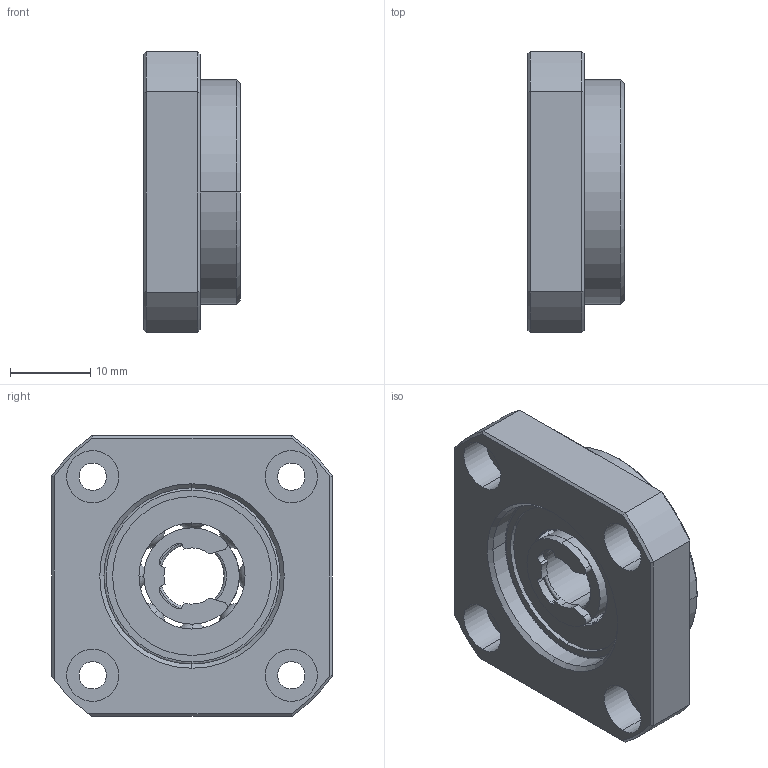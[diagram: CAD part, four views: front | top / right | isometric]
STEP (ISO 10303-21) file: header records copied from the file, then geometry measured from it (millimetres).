
FILE_DESCRIPTION (( 'STEP AP214' ), '1' );
FILE_NAME ('7.4023 FF10.STEP', '2026-03-06T07:48:28', ( '' ), ( '' ), 'SwSTEP 2.0', 'SolidWorks 2025', '' );
FILE_SCHEMA (( 'AUTOMOTIVE_DESIGN' ));
Length unit declared in the file: millimetre
Products named in the file (1): 7.4023 FF10
Bounding box: 12 x 35 x 35 mm (x, y, z)
Volume: 7608.2 mm3; surface area: 6999.4 mm2
Topology: 3 solids, 3 shells, 278 faces, 848 edges, 541 vertices
Faces by surface type: plane 80, sphere 72, cylinder 64, bspline 49, cone 13
Entity records: 15548 total; most frequent: CARTESIAN_POINT 7001, ORIENTED_EDGE 1600, DIRECTION 1240, EDGE_CURVE 800, VERTEX_POINT 525, AXIS2_PLACEMENT_3D 521, EDGE_LOOP 319, CIRCLE 291
